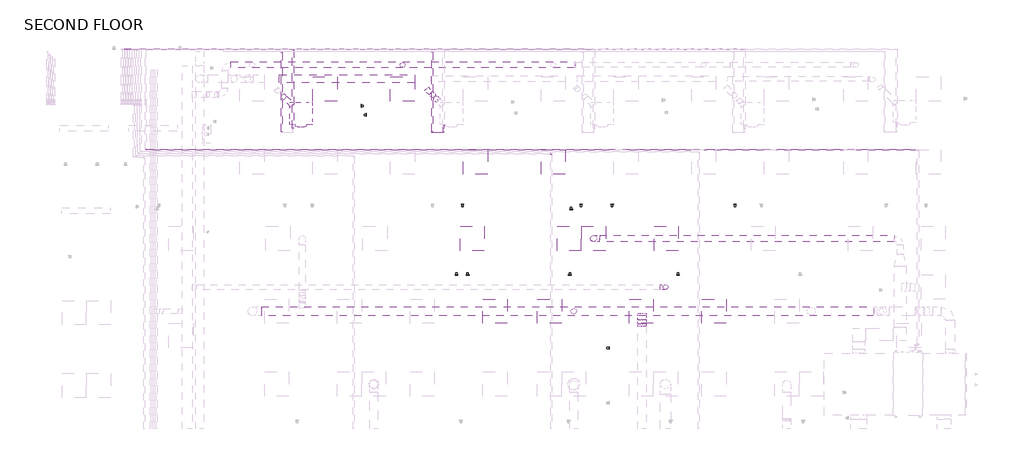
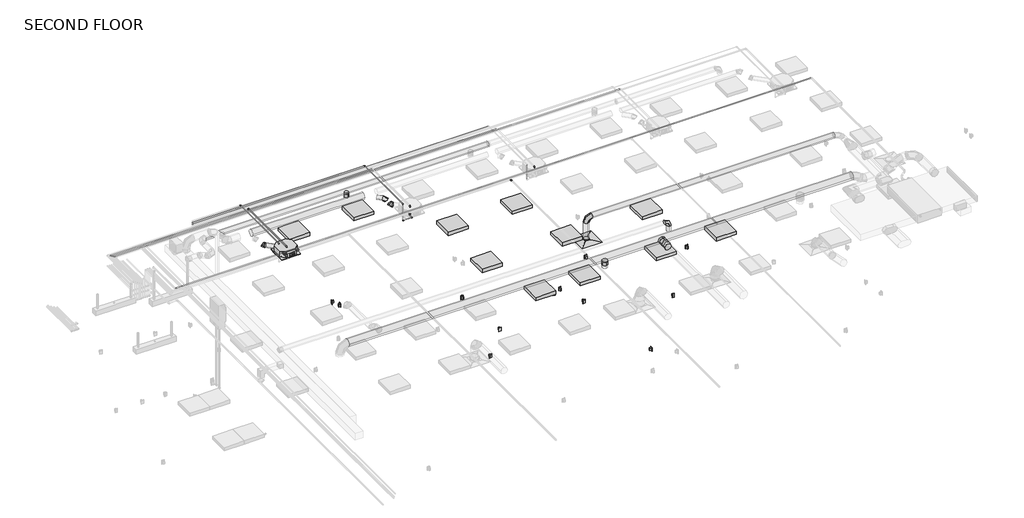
# One storey, part 10 of 12: 14 pipe segments, 11 duct segments, 11 light fixtures, 10 pipe fittings, 9 duct fittings, 9 proxies, 4 switching devices, 1 air terminal.
"""IFC4 building model written with IfcOpenShell, lengths in millimetres."""

from ifc_helpers import new_model, si_unit, point, frame, frame_2d, origin, place, context, project, spatial, circle_curve, trimmed, segment, composite_curve, outline, extrude, transform, mapped, element, save
from components import air_terminal_52af7c74, mechanical_equipment_2d84379e, duplex_receptacle_countertop_10251bba, round_elbow_1_d_b37ad80b, round_elbow_1_d_c80420c1, round_elbow_1_d_e3dc691b, round_elbow_1_d_bb13c7cb, round_takeoff_standard_d0146e83, round_takeoff_standard_a3e273fa, round_takeoff_standard_d07f2805, round_transition_angle_45_degree_3e9bb6ff, troffer_corner_insert_2x2_3lamp_e67c7f8f, elbow_generic_standard_c06ac706, elbow_generic_standard_a088f956

model = new_model("IFC4")

# Units and contexts
model_context = context("Model", 3, world=origin())
ifc_project = project(units=[si_unit("LENGTHUNIT", "METRE", prefix="MILLI")], contexts=[model_context])

# Site, building, storey
site = spatial("IfcSite", under=ifc_project)
building = spatial("IfcBuilding", under=site)
storey = spatial("IfcBuildingStorey", under=building, Name="SECOND FLOOR", Elevation=34544.0)

# Air terminal
placement = place(None, origin())
air_terminal_shape = air_terminal_52af7c74(model_context)
element("IfcAirTerminal", 1, ObjectType="Supply Diffuser - Rectangular Face Round Neck - Hosted : 24\"x24\" Face 6\" Neck - Hosted", at=placement, inside=storey, context=model_context, shape_type="MappedRepresentation", body=[
    mapped(air_terminal_shape, transform((3858.5795393, 2906.1195005, 36982.4), x_axis=(-1.0, 0.0, 0.0), y_axis=(0.0, 1.0, 0.0), z_axis=(0.0, 0.0, -1.0))),
])

# Proxies
mechanical_equipment_shape = mechanical_equipment_2d84379e(model_context)
element("IfcBuildingElementProxy", 2, Name="PLFY-P-NCMU-E_4-way_24x24 : PLFY-P12NCMU-E", ObjectType="PLFY-P-NCMU-E_4-way_24x24 : PLFY-P12NCMU-E", at=placement, inside=storey, context=model_context, shape_type="MappedRepresentation", body=[
    mapped(mechanical_equipment_shape, transform((-3492.3392107, 6112.4342918, 37287.2), x_axis=(-1.0, 0.0, 0.0), y_axis=(0.0, 1.0, 0.0), z_axis=(0.0, 0.0, -1.0))),
])
duplex_receptacle_countertop_shape = duplex_receptacle_countertop_10251bba(model_context)
element("IfcBuildingElementProxy", 3, Name="Duplex Receptacle : Standard", ObjectType="Duplex Receptacle : Standard", at=placement, inside=storey, context=model_context, shape_type="MappedRepresentation", body=[
    mapped(duplex_receptacle_countertop_shape, transform((-1973.8954607, 6240.6693669, 35001.2), x_axis=(0.0, -1.0, 0.0), y_axis=(0.0, 0.0, 1.0), z_axis=(-1.0, 0.0, 0.0))),
])
element("IfcBuildingElementProxy", 4, Name="Duplex Receptacle : Standard", ObjectType="Duplex Receptacle : Standard", at=placement, inside=storey, context=model_context, shape_type="MappedRepresentation", body=[
    mapped(duplex_receptacle_countertop_shape, transform((-1850.0704607, 6015.1333707, 35001.2), x_axis=(0.0, 1.0, 0.0), y_axis=(0.0, 0.0, 1.0), z_axis=(1.0, 0.0, 0.0))),
])
element("IfcBuildingElementProxy", 5, Name="Duplex Receptacle : Standard", ObjectType="Duplex Receptacle : Standard", at=placement, inside=storey, context=model_context, shape_type="MappedRepresentation", body=[
    mapped(duplex_receptacle_countertop_shape, transform((3547.242685, 3763.3695005, 35001.2), x_axis=(-1.0, 0.0, 0.0), y_axis=(0.0, 0.0, 1.0), z_axis=(0.0, 1.0, 0.0))),
])
element("IfcBuildingElementProxy", 6, Name="Duplex Receptacle : Standard", ObjectType="Duplex Receptacle : Standard", at=placement, inside=storey, context=model_context, shape_type="MappedRepresentation", body=[
    mapped(duplex_receptacle_countertop_shape, transform((7415.6384414, 3763.3695005, 35001.2), x_axis=(-1.0, 0.0, 0.0), y_axis=(0.0, 0.0, 1.0), z_axis=(0.0, 1.0, 0.0))),
])
element("IfcBuildingElementProxy", 7, Name="Duplex Receptacle : Standard", ObjectType="Duplex Receptacle : Standard", at=placement, inside=storey, context=model_context, shape_type="MappedRepresentation", body=[
    mapped(duplex_receptacle_countertop_shape, transform((3298.1886879, 3639.5445005, 35001.2), x_axis=(1.0, 0.0, 0.0), y_axis=(0.0, 0.0, 1.0), z_axis=(0.0, -1.0, 0.0))),
])
element("IfcBuildingElementProxy", 8, Name="Duplex Receptacle : Standard", ObjectType="Duplex Receptacle : Standard", at=placement, inside=storey, context=model_context, shape_type="MappedRepresentation", body=[
    mapped(duplex_receptacle_countertop_shape, transform((414.898923, 1991.7195005, 35001.2), x_axis=(1.0, 0.0, 0.0), y_axis=(0.0, 0.0, 1.0), z_axis=(0.0, -1.0, 0.0))),
])
element("IfcBuildingElementProxy", 9, Name="Duplex Receptacle : Standard", ObjectType="Duplex Receptacle : Standard", at=placement, inside=storey, context=model_context, shape_type="MappedRepresentation", body=[
    mapped(duplex_receptacle_countertop_shape, transform((4250.6920393, 156.7583411, 35001.2), x_axis=(0.0, 1.0, 0.0), y_axis=(0.0, 0.0, 1.0), z_axis=(1.0, 0.0, 0.0))),
])
element("IfcBuildingElementProxy", 10, Name="Duplex Receptacle : Standard", ObjectType="Duplex Receptacle : Standard", at=placement, inside=storey, context=model_context, shape_type="MappedRepresentation", body=[
    mapped(duplex_receptacle_countertop_shape, transform((5982.6308828, 1991.7195005, 35001.2), x_axis=(1.0, 0.0, 0.0), y_axis=(0.0, 0.0, 1.0), z_axis=(0.0, -1.0, 0.0))),
])

# Duct fittings
round_elbow_1_d_shape = round_elbow_1_d_b37ad80b(model_context)
element("IfcDuctFitting", 11, ObjectType="Round Elbow : 1 D", at=placement, inside=storey, context=model_context, shape_type="MappedRepresentation", body=[
    mapped(round_elbow_1_d_shape, transform((3858.5795393, 2906.1195005, 37712.65), x_axis=(0.0, 0.0, 1.0), y_axis=(1.0, 0.0, 0.0), z_axis=(0.0, 1.0, 0.0))),
])
round_elbow_1_d_2_shape = round_elbow_1_d_c80420c1(model_context)
element("IfcDuctFitting", 12, ObjectType="Round Elbow : 1 D", at=placement, inside=storey, context=model_context, shape_type="MappedRepresentation", body=[
    mapped(round_elbow_1_d_2_shape, transform((5669.1232893, 1686.9195005, 37693.6), x_axis=(1.0, 0.0, 0.0), y_axis=(0.0, 0.0, -1.0), z_axis=(0.0, 1.0, 0.0))),
])
round_elbow_1_d_3_shape = round_elbow_1_d_e3dc691b(model_context)
element("IfcDuctFitting", 13, ObjectType="Round Elbow : 1 D", at=placement, inside=storey, context=model_context, shape_type="MappedRepresentation", body=[
    mapped(round_elbow_1_d_3_shape, transform((-77.1395108, 6410.0385506, 37381.2593852), x_axis=(-0.7071067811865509, 0.7071067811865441, 0.0), y_axis=(0.0, 0.0, 1.0), z_axis=(0.7071067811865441, 0.7071067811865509, 0.0))),
])
element("IfcDuctFitting", 14, ObjectType="Round Elbow : 1 D", at=placement, inside=storey, context=model_context, shape_type="MappedRepresentation", body=[
    mapped(round_elbow_1_d_3_shape, transform((-190.2346041, 6523.1336439, 37541.2), x_axis=(-0.5000000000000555, 0.49999999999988, 0.7071067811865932), y_axis=(-0.49999999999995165, 0.5000000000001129, -0.7071067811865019), z_axis=(-0.7071067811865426, -0.7071067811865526, 0.0))),
])
round_elbow_1_d_4_shape = round_elbow_1_d_bb13c7cb(model_context)
element("IfcDuctFitting", 15, ObjectType="Round Elbow : 1 D", at=placement, inside=storey, context=model_context, shape_type="MappedRepresentation", body=[
    mapped(round_elbow_1_d_4_shape, transform((-3914.7619512, 6466.235991, 37381.2593852), x_axis=(0.5775887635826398, -0.5775887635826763, -0.5768729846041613), y_axis=(0.4079107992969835, -0.4079107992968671, 0.8168338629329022), z_axis=(-0.7071067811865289, -0.7071067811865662, 0.0))),
])
round_takeoff_standard_shape = round_takeoff_standard_d0146e83(model_context)
element("IfcDuctFitting", 16, ObjectType="Round Takeoff : Standard", at=placement, inside=storey, context=model_context, shape_type="MappedRepresentation", body=[
    mapped(round_takeoff_standard_shape, transform((3364.8670393, 1077.3195005, 37579.3), x_axis=(0.0, 0.0, -1.0), y_axis=(-1.0, 0.0, 0.0), z_axis=(0.0, 1.0, 0.0))),
])
round_takeoff_standard_2_shape = round_takeoff_standard_a3e273fa(model_context)
element("IfcDuctFitting", 17, ObjectType="Round Takeoff : Standard", at=placement, inside=storey, context=model_context, shape_type="MappedRepresentation", body=[
    mapped(round_takeoff_standard_2_shape, transform((-935.6704607, 7268.5695005, 37515.8), x_axis=(0.0, 0.0, -1.0), y_axis=(1.0, 0.0, 0.0), z_axis=(0.0, -1.0, 0.0))),
])
round_takeoff_standard_3_shape = round_takeoff_standard_d07f2805(model_context)
element("IfcDuctFitting", 18, ObjectType="Round Takeoff : Standard", at=placement, inside=storey, context=model_context, shape_type="MappedRepresentation", body=[
    mapped(round_takeoff_standard_3_shape, transform((5077.7795393, 963.0195005, 37693.6), x_axis=(0.0, -1.0, 0.0), y_axis=(-1.0, 0.0, 0.0), z_axis=(0.0, 0.0, -1.0))),
])
round_transition_angle_45_degree_shape = round_transition_angle_45_degree_3e9bb6ff(model_context)
element("IfcDuctFitting", 19, ObjectType="Round Transition - Angle : 45 Degree", at=placement, inside=storey, context=model_context, shape_type="MappedRepresentation", body=[
    mapped(round_transition_angle_45_degree_shape, transform((5077.7795393, 758.7255707, 37693.6), x_axis=(0.0, -1.0, 0.0), y_axis=(1.0, 0.0, 0.0), z_axis=(0.0, 0.0, 1.0))),
])

# Duct segments
element("IfcDuctSegment", 20, ObjectType="Taps / Short Radius", at=placement, inside=storey, context=model_context, shape_type="SweptSolid", body=[
    extrude(outline(composite_curve([segment(trimmed(circle_curve(frame_2d((2906.1195005, 37712.65)), 76.2), [point((2829.9195005, 37712.65))], [point((2906.1195005, 37788.85))], False, "CARTESIAN"), True, "CONTINUOUS"), segment(trimmed(circle_curve(frame_2d((2906.1195005, 37712.65)), 76.2), [point((2906.1195005, 37788.85))], [point((2982.3195005, 37712.65))], False, "CARTESIAN"), True, "CONTINUOUS"), segment(trimmed(circle_curve(frame_2d((2906.1195005, 37712.65)), 76.2), [point((2982.3195005, 37712.65))], [point((2906.1195005, 37636.45))], False, "CARTESIAN"), True, "CONTINUOUS"), segment(trimmed(circle_curve(frame_2d((2906.1195005, 37712.65)), 76.2), [point((2906.1195005, 37636.45))], [point((2829.9195005, 37712.65))], False, "CARTESIAN"), True, "CONTINUOUS")], self_intersect=False)), frame((4010.9795393, 0.0, 0.0), z_axis=(1.0, 0.0, 0.0), x_axis=(0.0, 1.0, 0.0)), (0.0, 0.0, 1.0), 7400.528125),
])
element("IfcDuctSegment", 21, ObjectType="Taps / Short Radius", at=placement, inside=storey, context=model_context, shape_type="SweptSolid", body=[
    extrude(outline(composite_curve([segment(trimmed(circle_curve(frame_2d((3858.5795393, 2906.1195005)), 76.2), [point((3934.7795393, 2906.1195005))], [point((3858.5795393, 2829.9195005))], False, "CARTESIAN"), True, "CONTINUOUS"), segment(trimmed(circle_curve(frame_2d((3858.5795393, 2906.1195005)), 76.2), [point((3858.5795393, 2829.9195005))], [point((3782.3795393, 2906.1195005))], False, "CARTESIAN"), True, "CONTINUOUS"), segment(trimmed(circle_curve(frame_2d((3858.5795393, 2906.1195005)), 76.2), [point((3782.3795393, 2906.1195005))], [point((3858.5795393, 2982.3195005))], False, "CARTESIAN"), True, "CONTINUOUS"), segment(trimmed(circle_curve(frame_2d((3858.5795393, 2906.1195005)), 76.2), [point((3858.5795393, 2982.3195005))], [point((3934.7795393, 2906.1195005))], False, "CARTESIAN"), True, "CONTINUOUS")], self_intersect=False)), frame((0.0, 0.0, 37036.375), z_axis=(0.0, 0.0, 1.0), x_axis=(1.0, 0.0, 0.0)), (0.0, 0.0, 1.0), 523.875),
])
element("IfcDuctSegment", 22, ObjectType="Taps / Short Radius", at=placement, inside=storey, context=model_context, shape_type="SweptSolid", body=[
    extrude(outline(composite_curve([segment(trimmed(circle_curve(frame_2d((0.0, 63.5)), 63.5), [point((-63.5, 63.5))], [point((0.0, 127.0))], False, "CARTESIAN"), True, "CONTINUOUS"), segment(trimmed(circle_curve(frame_2d((0.0, 63.5)), 63.5), [point((0.0, 127.0))], [point((63.5, 63.5))], False, "CARTESIAN"), True, "CONTINUOUS"), segment(trimmed(circle_curve(frame_2d((0.0, 63.5)), 63.5), [point((63.5, 63.5))], [point((0.0, 0.0))], False, "CARTESIAN"), True, "CONTINUOUS"), segment(trimmed(circle_curve(frame_2d((0.0, 63.5)), 63.5), [point((0.0, 0.0))], [point((-63.5, 63.5))], False, "CARTESIAN"), True, "CONTINUOUS")], self_intersect=False)), frame((-935.6704607, 7205.0695005, 37388.8), z_axis=(0.0, -5.900346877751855e-12, 1.0), x_axis=(1.0, 0.0, 0.0)), (0.0, 0.0, 1.0), 25.4),
])
element("IfcDuctSegment", 23, ObjectType="Taps / Short Radius", at=placement, inside=storey, context=model_context, shape_type="SweptSolid", body=[
    extrude(outline(composite_curve([segment(trimmed(circle_curve(frame_2d((7268.5695005, 37592.0)), 76.2), [point((7344.7695005, 37592.0))], [point((7268.5695005, 37515.8))], False, "CARTESIAN"), True, "CONTINUOUS"), segment(trimmed(circle_curve(frame_2d((7268.5695005, 37592.0)), 76.2), [point((7268.5695005, 37515.8))], [point((7192.3695005, 37592.0))], False, "CARTESIAN"), True, "CONTINUOUS"), segment(trimmed(circle_curve(frame_2d((7268.5695005, 37592.0)), 76.2), [point((7192.3695005, 37592.0))], [point((7268.5695005, 37668.2))], False, "CARTESIAN"), True, "CONTINUOUS"), segment(trimmed(circle_curve(frame_2d((7268.5695005, 37592.0)), 76.2), [point((7268.5695005, 37668.2))], [point((7344.7695005, 37592.0))], False, "CARTESIAN"), True, "CONTINUOUS")], self_intersect=False)), frame((-5248.9079607, 0.0, 0.0), z_axis=(1.0, 0.0, 0.0), x_axis=(0.0, 1.0, 0.0)), (0.0, 0.0, 1.0), 8630.7394878),
])
element("IfcDuctSegment", 24, ObjectType="Taps / Short Radius", at=placement, inside=storey, context=model_context, shape_type="SweptSolid", body=[
    extrude(outline(composite_curve([segment(trimmed(circle_curve(frame_2d((5669.1232893, 1686.9195005)), 63.5), [point((5605.6232893, 1686.9195005))], [point((5669.1232893, 1750.4195005))], False, "CARTESIAN"), True, "CONTINUOUS"), segment(trimmed(circle_curve(frame_2d((5669.1232893, 1686.9195005)), 63.5), [point((5669.1232893, 1750.4195005))], [point((5732.6232893, 1686.9195005))], False, "CARTESIAN"), True, "CONTINUOUS"), segment(trimmed(circle_curve(frame_2d((5669.1232893, 1686.9195005)), 63.5), [point((5732.6232893, 1686.9195005))], [point((5669.1232893, 1623.4195005))], False, "CARTESIAN"), True, "CONTINUOUS"), segment(trimmed(circle_curve(frame_2d((5669.1232893, 1686.9195005)), 63.5), [point((5669.1232893, 1623.4195005))], [point((5605.6232893, 1686.9195005))], False, "CARTESIAN"), True, "CONTINUOUS")], self_intersect=False)), frame((0.0, 0.0, 37388.8), z_axis=(0.0, 0.0, 1.0), x_axis=(1.0, 0.0, 0.0)), (0.0, 0.0, 1.0), 177.8),
])
element("IfcDuctSegment", 25, ObjectType="Taps / Short Radius", at=placement, inside=storey, context=model_context, shape_type="SweptSolid", body=[
    extrude(outline(composite_curve([segment(trimmed(circle_curve(frame_2d((1077.3195005, 37693.6)), 114.3), [point((963.0195005, 37693.6))], [point((1077.3195005, 37807.9))], False, "CARTESIAN"), True, "CONTINUOUS"), segment(trimmed(circle_curve(frame_2d((1077.3195005, 37693.6)), 114.3), [point((1077.3195005, 37807.9))], [point((1191.6195005, 37693.6))], False, "CARTESIAN"), True, "CONTINUOUS"), segment(trimmed(circle_curve(frame_2d((1077.3195005, 37693.6)), 114.3), [point((1191.6195005, 37693.6))], [point((1077.3195005, 37579.3))], False, "CARTESIAN"), True, "CONTINUOUS"), segment(trimmed(circle_curve(frame_2d((1077.3195005, 37693.6)), 114.3), [point((1077.3195005, 37579.3))], [point((963.0195005, 37693.6))], False, "CARTESIAN"), True, "CONTINUOUS")], self_intersect=False)), frame((-4479.7642107, 0.0, 0.0), z_axis=(1.0, 0.0, 0.0), x_axis=(0.0, 1.0, 0.0)), (0.0, 0.0, 1.0), 15377.2508712),
])
element("IfcDuctSegment", 26, ObjectType="Taps / Short Radius", at=placement, inside=storey, context=model_context, shape_type="SweptSolid", body=[
    extrude(outline(composite_curve([segment(trimmed(circle_curve(frame_2d((3364.8670393, 1077.3195005)), 76.2), [point((3288.6670393, 1077.3195005))], [point((3364.8670393, 1153.5195005))], False, "CARTESIAN"), True, "CONTINUOUS"), segment(trimmed(circle_curve(frame_2d((3364.8670393, 1077.3195005)), 76.2), [point((3364.8670393, 1153.5195005))], [point((3441.0670393, 1077.3195005))], False, "CARTESIAN"), True, "CONTINUOUS"), segment(trimmed(circle_curve(frame_2d((3364.8670393, 1077.3195005)), 76.2), [point((3441.0670393, 1077.3195005))], [point((3364.8670393, 1001.1195005))], False, "CARTESIAN"), True, "CONTINUOUS"), segment(trimmed(circle_curve(frame_2d((3364.8670393, 1077.3195005)), 76.2), [point((3364.8670393, 1001.1195005))], [point((3288.6670393, 1077.3195005))], False, "CARTESIAN"), True, "CONTINUOUS")], self_intersect=False)), frame((0.0, 0.0, 37388.8), z_axis=(0.0, 0.0, 1.0), x_axis=(1.0, 0.0, 0.0)), (0.0, 0.0, 1.0), 88.9),
])
element("IfcDuctSegment", 27, ObjectType="Taps / Short Radius", at=placement, inside=storey, context=model_context, shape_type="SweptSolid", body=[
    extrude(outline(composite_curve([segment(trimmed(circle_curve(frame_2d((37693.6, 5077.7795393)), 101.6), [point((37693.6, 4976.1795393))], [point((37592.0, 5077.7795393))], False, "CARTESIAN"), True, "CONTINUOUS"), segment(trimmed(circle_curve(frame_2d((37693.6, 5077.7795393)), 101.6), [point((37592.0, 5077.7795393))], [point((37693.6, 5179.3795393))], False, "CARTESIAN"), True, "CONTINUOUS"), segment(trimmed(circle_curve(frame_2d((37693.6, 5077.7795393)), 101.6), [point((37693.6, 5179.3795393))], [point((37795.2, 5077.7795393))], False, "CARTESIAN"), True, "CONTINUOUS"), segment(trimmed(circle_curve(frame_2d((37693.6, 5077.7795393)), 101.6), [point((37795.2, 5077.7795393))], [point((37693.6, 4976.1795393))], False, "CARTESIAN"), True, "CONTINUOUS")], self_intersect=False)), frame((0.0, 758.7255707, 0.0), z_axis=(0.0, 1.0, 0.0), x_axis=(0.0, 0.0, 1.0)), (0.0, 0.0, 1.0), 102.6939298),
])
element("IfcDuctSegment", 28, ObjectType="Taps / Short Radius", at=placement, inside=storey, context=model_context, shape_type="SweptSolid", body=[
    extrude(outline(composite_curve([segment(trimmed(circle_curve(frame_2d((6917.6422212, 37541.2)), 101.6), [point((6816.0422212, 37541.2))], [point((6917.6422212, 37642.8))], False, "CARTESIAN"), True, "CONTINUOUS"), segment(trimmed(circle_curve(frame_2d((6917.6422212, 37541.2)), 101.6), [point((6917.6422212, 37642.8))], [point((7019.2422212, 37541.2))], False, "CARTESIAN"), True, "CONTINUOUS"), segment(trimmed(circle_curve(frame_2d((6917.6422212, 37541.2)), 101.6), [point((7019.2422212, 37541.2))], [point((6917.6422212, 37439.6))], False, "CARTESIAN"), True, "CONTINUOUS"), segment(trimmed(circle_curve(frame_2d((6917.6422212, 37541.2)), 101.6), [point((6917.6422212, 37439.6))], [point((6816.0422212, 37541.2))], False, "CARTESIAN"), True, "CONTINUOUS")], self_intersect=False)), frame((-4035.9681814, 0.0, 0.0), z_axis=(1.0, 0.0, 0.0), x_axis=(0.0, 1.0, 0.0)), (0.0, 0.0, 1.0), 3406.3237194),
])
element("IfcDuctSegment", 29, ObjectType="Taps / Short Radius", at=placement, inside=storey, context=model_context, shape_type="SweptSolid", body=[
    extrude(outline(composite_curve([segment(trimmed(circle_curve(frame_2d((0.0, 63.5)), 63.5), [point((63.5, 63.5))], [point((0.0, 0.0))], False, "CARTESIAN"), True, "CONTINUOUS"), segment(trimmed(circle_curve(frame_2d((0.0, 63.5)), 63.5), [point((0.0, 0.0))], [point((-63.5, 63.5))], False, "CARTESIAN"), True, "CONTINUOUS"), segment(trimmed(circle_curve(frame_2d((0.0, 63.5)), 63.5), [point((-63.5, 63.5))], [point((0.0, 127.0))], False, "CARTESIAN"), True, "CONTINUOUS"), segment(trimmed(circle_curve(frame_2d((0.0, 63.5)), 63.5), [point((0.0, 127.0))], [point((63.5, 63.5))], False, "CARTESIAN"), True, "CONTINUOUS")], self_intersect=False)), frame((-227.4320429, 6560.3310827, 37604.7), z_axis=(-0.7071067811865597, 0.7071067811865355, 0.0), x_axis=(0.7071067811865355, 0.7071067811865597, 0.0)), (0.0, 0.0, 1.0), 154.4460622),
])
element("IfcDuctSegment", 30, ObjectType="Taps / Short Radius", at=placement, inside=storey, context=model_context, shape_type="SweptSolid", body=[
    extrude(outline(composite_curve([segment(trimmed(circle_curve(frame_2d((0.0, -63.5)), 63.5), [point((-63.5, -63.5))], [point((0.0, 0.0))], False, "CARTESIAN"), True, "CONTINUOUS"), segment(trimmed(circle_curve(frame_2d((0.0, -63.5)), 63.5), [point((0.0, 0.0))], [point((63.5, -63.5))], False, "CARTESIAN"), True, "CONTINUOUS"), segment(trimmed(circle_curve(frame_2d((0.0, -63.5)), 63.5), [point((63.5, -63.5))], [point((0.0, -127.0))], False, "CARTESIAN"), True, "CONTINUOUS"), segment(trimmed(circle_curve(frame_2d((0.0, -63.5)), 63.5), [point((0.0, -127.0))], [point((-63.5, -63.5))], False, "CARTESIAN"), True, "CONTINUOUS")], self_intersect=False)), frame((-3699.2355888, 6250.7096286, 37317.7593852), z_axis=(-0.7071067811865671, 0.707106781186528, 0.0), x_axis=(0.707106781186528, 0.7071067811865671, 0.0)), (0.0, 0.0, 1.0), 264.4758313),
])

# Light fixtures
troffer_corner_insert_2x2_3lamp_shape = troffer_corner_insert_2x2_3lamp_e67c7f8f(model_context)
element("IfcLightFixture", 31, ObjectType="Troffer Corner Insert : 2x2 3Lamp", at=placement, inside=storey, context=model_context, shape_type="MappedRepresentation", body=[
    mapped(troffer_corner_insert_2x2_3lamp_shape, transform((-935.6704607, 6658.9695005, 34848.8), x_axis=(1.0, 0.0, 0.0), y_axis=(0.0, 1.0, 0.0), z_axis=(0.0, 0.0, 1.0))),
])
element("IfcLightFixture", 32, ObjectType="Troffer Corner Insert : 2x2 3Lamp", at=placement, inside=storey, context=model_context, shape_type="MappedRepresentation", body=[
    mapped(troffer_corner_insert_2x2_3lamp_shape, transform((893.1295393, 4830.1695005, 34848.8), x_axis=(1.0, 0.0, 0.0), y_axis=(0.0, 1.0, 0.0), z_axis=(0.0, 0.0, 1.0))),
])
element("IfcLightFixture", 33, ObjectType="Troffer Corner Insert : 2x2 3Lamp", at=placement, inside=storey, context=model_context, shape_type="MappedRepresentation", body=[
    mapped(troffer_corner_insert_2x2_3lamp_shape, transform((2845.7545393, 4830.1695005, 34848.8), x_axis=(1.0, 0.0, 0.0), y_axis=(0.0, 1.0, 0.0), z_axis=(0.0, 0.0, 1.0))),
])
element("IfcLightFixture", 34, ObjectType="Troffer Corner Insert : 2x2 3Lamp", at=placement, inside=storey, context=model_context, shape_type="MappedRepresentation", body=[
    mapped(troffer_corner_insert_2x2_3lamp_shape, transform((810.5795393, 2906.1195005, 34848.8), x_axis=(1.0, 0.0, 0.0), y_axis=(0.0, 1.0, 0.0), z_axis=(0.0, 0.0, 1.0))),
])
element("IfcLightFixture", 35, ObjectType="Troffer Corner Insert : 2x2 3Lamp", at=placement, inside=storey, context=model_context, shape_type="MappedRepresentation", body=[
    mapped(troffer_corner_insert_2x2_3lamp_shape, transform((3248.9795393, 2906.1195005, 34848.8), x_axis=(1.0, 0.0, 0.0), y_axis=(0.0, 1.0, 0.0), z_axis=(0.0, 0.0, 1.0))),
])
element("IfcLightFixture", 36, ObjectType="Troffer Corner Insert : 2x2 3Lamp", at=placement, inside=storey, context=model_context, shape_type="MappedRepresentation", body=[
    mapped(troffer_corner_insert_2x2_3lamp_shape, transform((5687.3795393, 2906.1195005, 34848.8), x_axis=(1.0, 0.0, 0.0), y_axis=(0.0, 1.0, 0.0), z_axis=(0.0, 0.0, 1.0))),
])
element("IfcLightFixture", 37, ObjectType="Troffer Corner Insert : 2x2 3Lamp", at=placement, inside=storey, context=model_context, shape_type="MappedRepresentation", body=[
    mapped(troffer_corner_insert_2x2_3lamp_shape, transform((1387.6357893, 1077.3195005, 34848.8), x_axis=(1.0, 0.0, 0.0), y_axis=(0.0, 1.0, 0.0), z_axis=(0.0, 0.0, 1.0))),
])
element("IfcLightFixture", 38, ObjectType="Troffer Corner Insert : 2x2 3Lamp", at=placement, inside=storey, context=model_context, shape_type="MappedRepresentation", body=[
    mapped(troffer_corner_insert_2x2_3lamp_shape, transform((2755.2670393, 1077.3195005, 34848.8), x_axis=(1.0, 0.0, 0.0), y_axis=(0.0, 1.0, 0.0), z_axis=(0.0, 0.0, 1.0))),
])
element("IfcLightFixture", 39, ObjectType="Troffer Corner Insert : 2x2 3Lamp", at=placement, inside=storey, context=model_context, shape_type="MappedRepresentation", body=[
    mapped(troffer_corner_insert_2x2_3lamp_shape, transform((5059.5232893, 1077.3195005, 34848.8), x_axis=(1.0, 0.0, 0.0), y_axis=(0.0, 1.0, 0.0), z_axis=(0.0, 0.0, 1.0))),
])
element("IfcLightFixture", 40, ObjectType="Troffer Corner Insert : 2x2 3Lamp", at=placement, inside=storey, context=model_context, shape_type="MappedRepresentation", body=[
    mapped(troffer_corner_insert_2x2_3lamp_shape, transform((6888.3232893, 1077.3195005, 34848.8), x_axis=(1.0, 0.0, 0.0), y_axis=(0.0, 1.0, 0.0), z_axis=(0.0, 0.0, 1.0))),
])
element("IfcLightFixture", 41, ObjectType="Troffer Corner Insert : 2x2 3Lamp", at=placement, inside=storey, context=model_context, shape_type="MappedRepresentation", body=[
    mapped(troffer_corner_insert_2x2_3lamp_shape, transform((-2888.2954607, 6658.9695005, 34848.8), x_axis=(1.0, 0.0, 0.0), y_axis=(0.0, 1.0, 0.0), z_axis=(0.0, 0.0, 1.0))),
])

# Pipe fittings
elbow_generic_standard_shape = elbow_generic_standard_c06ac706(model_context)
element("IfcPipeFitting", 42, ObjectType="Elbow - Generic : Standard", at=placement, inside=storey, context=model_context, shape_type="MappedRepresentation", body=[
    mapped(elbow_generic_standard_shape, transform((-3690.7767107, 7663.8570005, 37744.4), x_axis=(0.0, 1.0, 0.0), y_axis=(-1.0, 0.0, 0.0), z_axis=(0.0, 0.0, 1.0))),
])
element("IfcPipeFitting", 43, ObjectType="Elbow - Generic : Standard", at=placement, inside=storey, context=model_context, shape_type="MappedRepresentation", body=[
    mapped(elbow_generic_standard_shape, transform((90.6482893, 5684.3376647, 37706.3), x_axis=(0.0, 0.0, 1.0), y_axis=(0.0, 1.0, 0.0), z_axis=(-1.0, 0.0, 0.0))),
])
element("IfcPipeFitting", 44, ObjectType="Elbow - Generic : Standard", at=placement, inside=storey, context=model_context, shape_type="MappedRepresentation", body=[
    mapped(elbow_generic_standard_shape, transform((3872.0732893, 5665.0498496, 37668.2), x_axis=(0.0, 0.0, 1.0), y_axis=(0.0, 1.0, 0.0), z_axis=(-1.0, 0.0, 0.0))),
])
element("IfcPipeFitting", 45, ObjectType="Elbow - Generic : Standard", at=placement, inside=storey, context=model_context, shape_type="MappedRepresentation", body=[
    mapped(elbow_generic_standard_shape, transform((2797.6532893, 5034.0701311, 37998.4), x_axis=(0.0, 1.0, 0.0), y_axis=(-1.0, 0.0, 0.0), z_axis=(0.0, 0.0, 1.0))),
])
element("IfcPipeFitting", 46, ObjectType="Elbow - Generic : Standard", at=placement, inside=storey, context=model_context, shape_type="MappedRepresentation", body=[
    mapped(elbow_generic_standard_shape, transform((90.6482893, 5684.3376647, 37437.2187602), x_axis=(0.0, 0.0, -1.0), y_axis=(0.0, 1.0, 0.0), z_axis=(1.0, 0.0, 0.0))),
])
elbow_generic_standard_2_shape = elbow_generic_standard_a088f956(model_context)
element("IfcPipeFitting", 47, ObjectType="Elbow - Generic : Standard", at=placement, inside=storey, context=model_context, shape_type="MappedRepresentation", body=[
    mapped(elbow_generic_standard_2_shape, transform((-3973.3517107, 7600.3570005, 37998.4), x_axis=(0.0, 1.0, 0.0), y_axis=(-1.0, 0.0, 0.0), z_axis=(0.0, 0.0, 1.0))),
])
element("IfcPipeFitting", 48, ObjectType="Elbow - Generic : Standard", at=placement, inside=storey, context=model_context, shape_type="MappedRepresentation", body=[
    mapped(elbow_generic_standard_2_shape, transform((87.4732893, 5568.3570005, 37407.85), x_axis=(1.0, 0.0, 0.0), y_axis=(0.0, 0.9999999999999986, 5.375459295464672e-08), z_axis=(0.0, -5.375459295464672e-08, 0.9999999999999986))),
])
element("IfcPipeFitting", 49, ObjectType="Elbow - Generic : Standard", at=placement, inside=storey, context=model_context, shape_type="MappedRepresentation", body=[
    mapped(elbow_generic_standard_2_shape, transform((-191.9267107, 5568.3570005, 37407.85), x_axis=(-1.0, 0.0, 0.0), y_axis=(0.0, 0.0, 1.0), z_axis=(0.0, 1.0, 0.0))),
])
element("IfcPipeFitting", 50, ObjectType="Elbow - Generic : Standard", at=placement, inside=storey, context=model_context, shape_type="MappedRepresentation", body=[
    mapped(elbow_generic_standard_2_shape, transform((-191.9267107, 5568.3570005, 37947.6), x_axis=(0.0, 0.0, 1.0), y_axis=(0.0, 1.0, 0.0), z_axis=(-1.0, 0.0, 0.0))),
])
element("IfcPipeFitting", 51, ObjectType="Elbow - Generic : Standard", at=placement, inside=storey, context=model_context, shape_type="MappedRepresentation", body=[
    mapped(elbow_generic_standard_2_shape, transform((-191.9267107, 7600.3570005, 37947.6), x_axis=(0.0, 1.0, 0.0), y_axis=(-1.0, 0.0, 0.0), z_axis=(0.0, 0.0, 1.0))),
])

# Pipe segments
element("IfcPipeSegment", 52, ObjectType="Copper Tubing", at=placement, inside=storey, context=model_context, shape_type="SweptSolid", body=[
    extrude(outline(composite_curve([segment(trimmed(circle_curve(frame_2d((37744.4, -3690.7767107)), 14.2875), [point((37744.4, -3676.4892107))], [point((37758.6875, -3690.7767107))], False, "CARTESIAN"), True, "CONTINUOUS"), segment(trimmed(circle_curve(frame_2d((37744.4, -3690.7767107)), 14.2875), [point((37758.6875, -3690.7767107))], [point((37744.4, -3705.0642107))], False, "CARTESIAN"), True, "CONTINUOUS"), segment(trimmed(circle_curve(frame_2d((37744.4, -3690.7767107)), 14.2875), [point((37744.4, -3705.0642107))], [point((37730.1125, -3690.7767107))], False, "CARTESIAN"), True, "CONTINUOUS"), segment(trimmed(circle_curve(frame_2d((37744.4, -3690.7767107)), 14.2875), [point((37730.1125, -3690.7767107))], [point((37744.4, -3676.4892107))], False, "CARTESIAN"), True, "CONTINUOUS")], self_intersect=False)), frame((0.0, 5676.904836, 0.0), z_axis=(0.0, 1.0, 0.0), x_axis=(0.0, 0.0, 1.0)), (0.0, 0.0, 1.0), 1966.3146645),
])
element("IfcPipeSegment", 53, ObjectType="Copper Tubing", at=placement, inside=storey, context=model_context, shape_type="SweptSolid", body=[
    extrude(outline(composite_curve([segment(trimmed(circle_curve(frame_2d((7663.8570005, 37706.3)), 14.2875), [point((7649.5695005, 37706.3))], [point((7663.8570005, 37720.5875))], False, "CARTESIAN"), True, "CONTINUOUS"), segment(trimmed(circle_curve(frame_2d((7663.8570005, 37706.3)), 14.2875), [point((7663.8570005, 37720.5875))], [point((7678.1445005, 37706.3))], False, "CARTESIAN"), True, "CONTINUOUS"), segment(trimmed(circle_curve(frame_2d((7663.8570005, 37706.3)), 14.2875), [point((7678.1445005, 37706.3))], [point((7663.8570005, 37692.0125))], False, "CARTESIAN"), True, "CONTINUOUS"), segment(trimmed(circle_curve(frame_2d((7663.8570005, 37706.3)), 14.2875), [point((7663.8570005, 37692.0125))], [point((7649.5695005, 37706.3))], False, "CARTESIAN"), True, "CONTINUOUS")], self_intersect=False)), frame((-7910.4415543, 0.0, 0.0), z_axis=(1.0, 0.0, 0.0), x_axis=(0.0, 1.0, 0.0)), (0.0, 0.0, 1.0), 7980.4523436),
])
element("IfcPipeSegment", 54, ObjectType="Copper Tubing", at=placement, inside=storey, context=model_context, shape_type="SweptSolid", body=[
    extrude(outline(composite_curve([segment(trimmed(circle_curve(frame_2d((7663.8570005, 37668.2)), 14.2875), [point((7649.5695005, 37668.2))], [point((7663.8570005, 37682.4875))], False, "CARTESIAN"), True, "CONTINUOUS"), segment(trimmed(circle_curve(frame_2d((7663.8570005, 37668.2)), 14.2875), [point((7663.8570005, 37682.4875))], [point((7678.1445005, 37668.2))], False, "CARTESIAN"), True, "CONTINUOUS"), segment(trimmed(circle_curve(frame_2d((7663.8570005, 37668.2)), 14.2875), [point((7678.1445005, 37668.2))], [point((7663.8570005, 37653.9125))], False, "CARTESIAN"), True, "CONTINUOUS"), segment(trimmed(circle_curve(frame_2d((7663.8570005, 37668.2)), 14.2875), [point((7663.8570005, 37653.9125))], [point((7649.5695005, 37668.2))], False, "CARTESIAN"), True, "CONTINUOUS")], self_intersect=False)), frame((-7850.4415543, 0.0, 0.0), z_axis=(1.0, 0.0, 0.0), x_axis=(0.0, 1.0, 0.0)), (0.0, 0.0, 1.0), 11701.8773436),
])
element("IfcPipeSegment", 55, ObjectType="Copper Tubing", at=placement, inside=storey, context=model_context, shape_type="SweptSolid", body=[
    extrude(outline(composite_curve([segment(trimmed(circle_curve(frame_2d((7663.8570005, 37630.1)), 14.2875), [point((7649.5695005, 37630.1))], [point((7663.8570005, 37644.3875))], False, "CARTESIAN"), True, "CONTINUOUS"), segment(trimmed(circle_curve(frame_2d((7663.8570005, 37630.1)), 14.2875), [point((7663.8570005, 37644.3875))], [point((7678.1445005, 37630.1))], False, "CARTESIAN"), True, "CONTINUOUS"), segment(trimmed(circle_curve(frame_2d((7663.8570005, 37630.1)), 14.2875), [point((7678.1445005, 37630.1))], [point((7663.8570005, 37615.8125))], False, "CARTESIAN"), True, "CONTINUOUS"), segment(trimmed(circle_curve(frame_2d((7663.8570005, 37630.1)), 14.2875), [point((7663.8570005, 37615.8125))], [point((7649.5695005, 37630.1))], False, "CARTESIAN"), True, "CONTINUOUS")], self_intersect=False)), frame((-7790.4415543, 0.0, 0.0), z_axis=(1.0, 0.0, 0.0), x_axis=(0.0, 1.0, 0.0)), (0.0, 0.0, 1.0), 15423.3023436),
])
element("IfcPipeSegment", 56, ObjectType="Copper Tubing", at=placement, inside=storey, context=model_context, shape_type="SweptSolid", body=[
    extrude(outline(composite_curve([segment(trimmed(circle_curve(frame_2d((5135.6701311, 37998.4)), 14.2875), [point((5121.3826311, 37998.4))], [point((5135.6701311, 38012.6875))], False, "CARTESIAN"), True, "CONTINUOUS"), segment(trimmed(circle_curve(frame_2d((5135.6701311, 37998.4)), 14.2875), [point((5135.6701311, 38012.6875))], [point((5149.9576311, 37998.4))], False, "CARTESIAN"), True, "CONTINUOUS"), segment(trimmed(circle_curve(frame_2d((5135.6701311, 37998.4)), 14.2875), [point((5149.9576311, 37998.4))], [point((5135.6701311, 37984.1125))], False, "CARTESIAN"), True, "CONTINUOUS"), segment(trimmed(circle_curve(frame_2d((5135.6701311, 37998.4)), 14.2875), [point((5135.6701311, 37984.1125))], [point((5121.3826311, 37998.4))], False, "CARTESIAN"), True, "CONTINUOUS")], self_intersect=False)), frame((-7370.4415543, 0.0, 0.0), z_axis=(1.0, 0.0, 0.0), x_axis=(0.0, 1.0, 0.0)), (0.0, 0.0, 1.0), 19360.9898436),
])
element("IfcPipeSegment", 57, ObjectType="Copper Tubing", at=placement, inside=storey, context=model_context, shape_type="SweptSolid", body=[
    extrude(outline(composite_curve([segment(trimmed(circle_curve(frame_2d((37998.4, -3973.3517107)), 7.9375), [point((37998.4, -3965.4142107))], [point((38006.3375, -3973.3517107))], False, "CARTESIAN"), True, "CONTINUOUS"), segment(trimmed(circle_curve(frame_2d((37998.4, -3973.3517107)), 7.9375), [point((38006.3375, -3973.3517107))], [point((37998.4, -3981.2892107))], False, "CARTESIAN"), True, "CONTINUOUS"), segment(trimmed(circle_curve(frame_2d((37998.4, -3973.3517107)), 7.9375), [point((37998.4, -3981.2892107))], [point((37990.4625, -3973.3517107))], False, "CARTESIAN"), True, "CONTINUOUS"), segment(trimmed(circle_curve(frame_2d((37998.4, -3973.3517107)), 7.9375), [point((37990.4625, -3973.3517107))], [point((37998.4, -3965.4142107))], False, "CARTESIAN"), True, "CONTINUOUS")], self_intersect=False)), frame((0.0, 5582.6445005, 0.0), z_axis=(0.0, 1.0, 0.0), x_axis=(0.0, 0.0, 1.0)), (0.0, 0.0, 1.0), 2003.425),
])
element("IfcPipeSegment", 58, ObjectType="Copper Tubing", at=placement, inside=storey, context=model_context, shape_type="SweptSolid", body=[
    extrude(outline(composite_curve([segment(trimmed(circle_curve(frame_2d((37407.85, 87.4732893)), 7.9375), [point((37407.85, 79.5357893))], [point((37399.9125, 87.4732893))], False, "CARTESIAN"), True, "CONTINUOUS"), segment(trimmed(circle_curve(frame_2d((37407.85, 87.4732893)), 7.9375), [point((37399.9125, 87.4732893))], [point((37407.85, 95.4107893))], False, "CARTESIAN"), True, "CONTINUOUS"), segment(trimmed(circle_curve(frame_2d((37407.85, 87.4732893)), 7.9375), [point((37407.85, 95.4107893))], [point((37415.7875, 87.4732893))], False, "CARTESIAN"), True, "CONTINUOUS"), segment(trimmed(circle_curve(frame_2d((37407.85, 87.4732893)), 7.9375), [point((37415.7875, 87.4732893))], [point((37407.85, 79.5357893))], False, "CARTESIAN"), True, "CONTINUOUS")], self_intersect=False)), frame((0.0, 5582.6445005, 0.0), z_axis=(0.0, 1.0, 0.0), x_axis=(0.0, 0.0, 1.0)), (0.0, 0.0, 1.0), 176.2125),
])
element("IfcPipeSegment", 59, ObjectType="Copper Tubing", at=placement, inside=storey, context=model_context, shape_type="SweptSolid", body=[
    extrude(outline(composite_curve([segment(trimmed(circle_curve(frame_2d((5568.3570005, 37407.85)), 7.9375), [point((5576.2945005, 37407.85))], [point((5568.3570005, 37399.9125))], False, "CARTESIAN"), True, "CONTINUOUS"), segment(trimmed(circle_curve(frame_2d((5568.3570005, 37407.85)), 7.9375), [point((5568.3570005, 37399.9125))], [point((5560.4195005, 37407.85))], False, "CARTESIAN"), True, "CONTINUOUS"), segment(trimmed(circle_curve(frame_2d((5568.3570005, 37407.85)), 7.9375), [point((5560.4195005, 37407.85))], [point((5568.3570005, 37415.7875))], False, "CARTESIAN"), True, "CONTINUOUS"), segment(trimmed(circle_curve(frame_2d((5568.3570005, 37407.85)), 7.9375), [point((5568.3570005, 37415.7875))], [point((5576.2945005, 37407.85))], False, "CARTESIAN"), True, "CONTINUOUS")], self_intersect=False)), frame((-177.6392107, 0.0, 0.0), z_axis=(1.0, 0.0, 0.0), x_axis=(0.0, 1.0, 0.0)), (0.0, 0.0, 1.0), 250.825),
])
element("IfcPipeSegment", 60, ObjectType="Copper Tubing", at=placement, inside=storey, context=model_context, shape_type="SweptSolid", body=[
    extrude(outline(composite_curve([segment(trimmed(circle_curve(frame_2d((37947.6, -191.9267107)), 7.9375), [point((37947.6, -183.9892107))], [point((37955.5375, -191.9267107))], False, "CARTESIAN"), True, "CONTINUOUS"), segment(trimmed(circle_curve(frame_2d((37947.6, -191.9267107)), 7.9375), [point((37955.5375, -191.9267107))], [point((37947.6, -199.8642107))], False, "CARTESIAN"), True, "CONTINUOUS"), segment(trimmed(circle_curve(frame_2d((37947.6, -191.9267107)), 7.9375), [point((37947.6, -199.8642107))], [point((37939.6625, -191.9267107))], False, "CARTESIAN"), True, "CONTINUOUS"), segment(trimmed(circle_curve(frame_2d((37947.6, -191.9267107)), 7.9375), [point((37939.6625, -191.9267107))], [point((37947.6, -183.9892107))], False, "CARTESIAN"), True, "CONTINUOUS")], self_intersect=False)), frame((0.0, 5582.6445005, 0.0), z_axis=(0.0, 1.0, 0.0), x_axis=(0.0, 0.0, 1.0)), (0.0, 0.0, 1.0), 2003.425),
])
element("IfcPipeSegment", 61, ObjectType="Copper Tubing", at=placement, inside=storey, context=model_context, shape_type="SweptSolid", body=[
    extrude(outline(composite_curve([segment(trimmed(circle_curve(frame_2d((-191.9267107, 5568.3570005)), 7.9375), [point((-199.8642107, 5568.3570005))], [point((-191.9267107, 5576.2945005))], False, "CARTESIAN"), True, "CONTINUOUS"), segment(trimmed(circle_curve(frame_2d((-191.9267107, 5568.3570005)), 7.9375), [point((-191.9267107, 5576.2945005))], [point((-183.9892107, 5568.3570005))], False, "CARTESIAN"), True, "CONTINUOUS"), segment(trimmed(circle_curve(frame_2d((-191.9267107, 5568.3570005)), 7.9375), [point((-183.9892107, 5568.3570005))], [point((-191.9267107, 5560.4195005))], False, "CARTESIAN"), True, "CONTINUOUS"), segment(trimmed(circle_curve(frame_2d((-191.9267107, 5568.3570005)), 7.9375), [point((-191.9267107, 5560.4195005))], [point((-199.8642107, 5568.3570005))], False, "CARTESIAN"), True, "CONTINUOUS")], self_intersect=False)), frame((0.0, 0.0, 37422.1375), z_axis=(0.0, 0.0, 1.0), x_axis=(1.0, 0.0, 0.0)), (0.0, 0.0, 1.0), 511.175),
])
element("IfcPipeSegment", 62, ObjectType="Copper Tubing", at=placement, inside=storey, context=model_context, shape_type="SweptSolid", body=[
    extrude(outline(composite_curve([segment(trimmed(circle_curve(frame_2d((7600.3570005, 37947.6)), 7.9375), [point((7608.2945005, 37947.6))], [point((7600.3570005, 37939.6625))], False, "CARTESIAN"), True, "CONTINUOUS"), segment(trimmed(circle_curve(frame_2d((7600.3570005, 37947.6)), 7.9375), [point((7600.3570005, 37939.6625))], [point((7592.4195005, 37947.6))], False, "CARTESIAN"), True, "CONTINUOUS"), segment(trimmed(circle_curve(frame_2d((7600.3570005, 37947.6)), 7.9375), [point((7592.4195005, 37947.6))], [point((7600.3570005, 37955.5375))], False, "CARTESIAN"), True, "CONTINUOUS"), segment(trimmed(circle_curve(frame_2d((7600.3570005, 37947.6)), 7.9375), [point((7600.3570005, 37955.5375))], [point((7608.2945005, 37947.6))], False, "CARTESIAN"), True, "CONTINUOUS")], self_intersect=False)), frame((-5446.5517107, 0.0, 0.0), z_axis=(1.0, 0.0, 0.0), x_axis=(0.0, 1.0, 0.0)), (0.0, 0.0, 1.0), 5240.3375),
])
element("IfcPipeSegment", 63, ObjectType="Copper Tubing", at=placement, inside=storey, context=model_context, shape_type="SweptSolid", body=[
    extrude(outline(composite_curve([segment(trimmed(circle_curve(frame_2d((3588.7045393, 5568.3570005)), 7.9375), [point((3580.7670393, 5568.3570005))], [point((3588.7045393, 5576.2945005))], False, "CARTESIAN"), True, "CONTINUOUS"), segment(trimmed(circle_curve(frame_2d((3588.7045393, 5568.3570005)), 7.9375), [point((3588.7045393, 5576.2945005))], [point((3596.6420393, 5568.3570005))], False, "CARTESIAN"), True, "CONTINUOUS"), segment(trimmed(circle_curve(frame_2d((3588.7045393, 5568.3570005)), 7.9375), [point((3596.6420393, 5568.3570005))], [point((3588.7045393, 5560.4195005))], False, "CARTESIAN"), True, "CONTINUOUS"), segment(trimmed(circle_curve(frame_2d((3588.7045393, 5568.3570005)), 7.9375), [point((3588.7045393, 5560.4195005))], [point((3580.7670393, 5568.3570005))], False, "CARTESIAN"), True, "CONTINUOUS")], self_intersect=False)), frame((0.0, 0.0, 37422.1374993), z_axis=(0.0, 0.0, 1.0), x_axis=(1.0, 0.0, 0.0)), (0.0, 0.0, 1.0), 460.3750007),
])
element("IfcPipeSegment", 64, ObjectType="Copper Tubing", at=placement, inside=storey, context=model_context, shape_type="SweptSolid", body=[
    extrude(outline(composite_curve([segment(trimmed(circle_curve(frame_2d((7600.3570005, 37896.8)), 7.9375), [point((7608.2945005, 37896.8))], [point((7600.3570005, 37888.8625))], False, "CARTESIAN"), True, "CONTINUOUS"), segment(trimmed(circle_curve(frame_2d((7600.3570005, 37896.8)), 7.9375), [point((7600.3570005, 37888.8625))], [point((7592.4195005, 37896.8))], False, "CARTESIAN"), True, "CONTINUOUS"), segment(trimmed(circle_curve(frame_2d((7600.3570005, 37896.8)), 7.9375), [point((7592.4195005, 37896.8))], [point((7600.3570005, 37904.7375))], False, "CARTESIAN"), True, "CONTINUOUS"), segment(trimmed(circle_curve(frame_2d((7600.3570005, 37896.8)), 7.9375), [point((7600.3570005, 37904.7375))], [point((7608.2945005, 37896.8))], False, "CARTESIAN"), True, "CONTINUOUS")], self_intersect=False)), frame((-5446.5517107, 0.0, 0.0), z_axis=(1.0, 0.0, 0.0), x_axis=(0.0, 1.0, 0.0)), (0.0, 0.0, 1.0), 9020.96875),
])
element("IfcPipeSegment", 65, ObjectType="Copper Tubing", at=placement, inside=storey, context=model_context, shape_type="SweptSolid", body=[
    extrude(outline(composite_curve([segment(trimmed(circle_curve(frame_2d((37437.2187602, 90.6482893)), 14.2875), [point((37437.2187602, 76.3607893))], [point((37422.9312602, 90.6482893))], False, "CARTESIAN"), True, "CONTINUOUS"), segment(trimmed(circle_curve(frame_2d((37437.2187602, 90.6482893)), 14.2875), [point((37422.9312602, 90.6482893))], [point((37437.2187602, 104.9357893))], False, "CARTESIAN"), True, "CONTINUOUS"), segment(trimmed(circle_curve(frame_2d((37437.2187602, 90.6482893)), 14.2875), [point((37437.2187602, 104.9357893))], [point((37451.5062602, 90.6482893))], False, "CARTESIAN"), True, "CONTINUOUS"), segment(trimmed(circle_curve(frame_2d((37437.2187602, 90.6482893)), 14.2875), [point((37451.5062602, 90.6482893))], [point((37437.2187602, 76.3607893))], False, "CARTESIAN"), True, "CONTINUOUS")], self_intersect=False)), frame((0.0, 5704.9751647, 0.0), z_axis=(0.0, 1.0, 0.0), x_axis=(0.0, 0.0, 1.0)), (0.0, 0.0, 1.0), 53.8818359),
])

# Switching devices
element("IfcSwitchingDevice", 66, ObjectType="Lighting Switches : Single Pole", at=placement, inside=storey, context=model_context, shape_type="MappedRepresentation", body=[
    mapped(duplex_receptacle_countertop_shape, transform((568.5788686, 3763.3695005, 35763.2), x_axis=(-1.0, 0.0, 0.0), y_axis=(0.0, 0.0, 1.0), z_axis=(0.0, 1.0, 0.0))),
])
element("IfcSwitchingDevice", 67, ObjectType="Lighting Switches : Single Pole", at=placement, inside=storey, context=model_context, shape_type="MappedRepresentation", body=[
    mapped(duplex_receptacle_countertop_shape, transform((4328.4886901, 3763.3695005, 35763.2), x_axis=(-1.0, 0.0, 0.0), y_axis=(0.0, 0.0, 1.0), z_axis=(0.0, 1.0, 0.0))),
])
element("IfcSwitchingDevice", 68, ObjectType="Lighting Switches : Three Way", at=placement, inside=storey, context=model_context, shape_type="MappedRepresentation", body=[
    mapped(duplex_receptacle_countertop_shape, transform((3264.6382368, 1991.7195005, 35763.2), x_axis=(1.0, 0.0, 0.0), y_axis=(0.0, 0.0, 1.0), z_axis=(0.0, -1.0, 0.0))),
])
element("IfcSwitchingDevice", 69, ObjectType="Lighting Switches : Three Way", at=placement, inside=storey, context=model_context, shape_type="MappedRepresentation", body=[
    mapped(duplex_receptacle_countertop_shape, transform((696.8470119, 1991.7195005, 35763.2), x_axis=(1.0, 0.0, 0.0), y_axis=(0.0, 0.0, 1.0), z_axis=(0.0, -1.0, 0.0))),
])

save(model, "model.ifc")
